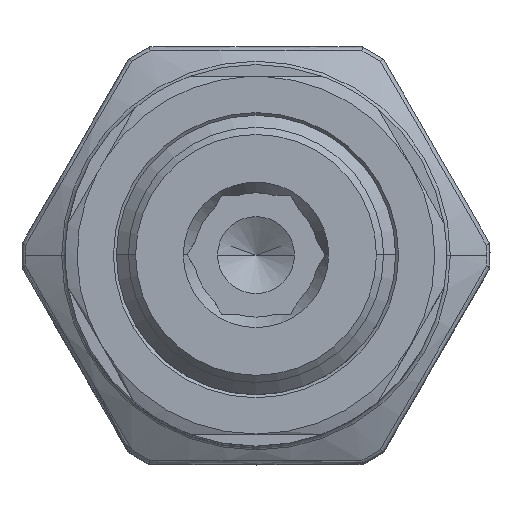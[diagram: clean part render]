
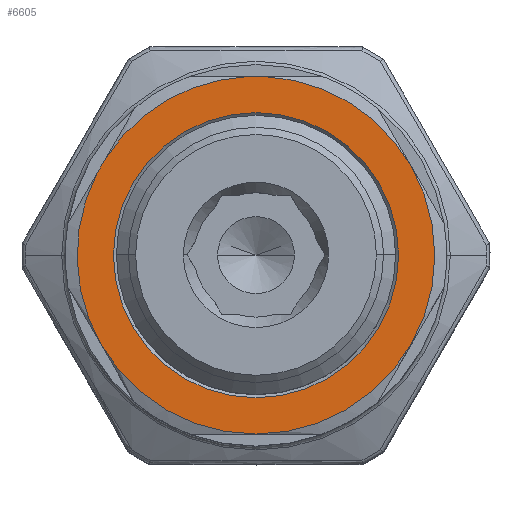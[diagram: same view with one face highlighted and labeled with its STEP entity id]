
A CAD part, top view. The second image highlights one B-rep face of the part: STEP entity #6605.
In plain terms, the highlighted planar face has unit normal (0, 0, 1).
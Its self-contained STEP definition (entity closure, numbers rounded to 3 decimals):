
#2105=CARTESIAN_POINT('',(0.,0.,37.135));
#2106=DIRECTION('',(0.,0.,1.));
#2107=DIRECTION('',(-0.866,-0.5,0.));
#2108=AXIS2_PLACEMENT_3D('',#2105,#2106,#2107);
#2110=CARTESIAN_POINT('',(0.,0.,37.135));
#2111=DIRECTION('',(0.,0.,1.));
#2112=DIRECTION('',(-0.889,0.458,0.));
#2113=AXIS2_PLACEMENT_3D('',#2110,#2111,#2112);
#2115=DIRECTION('',(-0.5,-0.866,0.));
#2116=VECTOR('',#2115,0.921);
#2117=CARTESIAN_POINT('',(-8.009,5.156,37.135));
#2118=LINE('',#2117,#2116);
#2119=CARTESIAN_POINT('',(0.,0.,37.135));
#2120=DIRECTION('',(0.,0.,1.));
#2121=DIRECTION('',(-0.048,0.999,0.));
#2122=AXIS2_PLACEMENT_3D('',#2119,#2120,#2121);
#2124=DIRECTION('',(1.,0.,0.));
#2125=VECTOR('',#2124,0.921);
#2126=CARTESIAN_POINT('',(-0.46,9.514,37.135));
#2127=LINE('',#2126,#2125);
#2128=CARTESIAN_POINT('',(0.,0.,37.135));
#2129=DIRECTION('',(0.,0.,1.));
#2130=DIRECTION('',(0.866,0.5,0.));
#2131=AXIS2_PLACEMENT_3D('',#2128,#2129,#2130);
#2133=CARTESIAN_POINT('',(0.,0.,37.135));
#2134=DIRECTION('',(0.,0.,-1.));
#2135=DIRECTION('',(0.866,0.5,0.));
#2136=AXIS2_PLACEMENT_3D('',#2133,#2134,#2135);
#2138=CARTESIAN_POINT('',(0.,0.,37.135));
#2139=DIRECTION('',(0.,0.,-1.));
#2140=DIRECTION('',(-0.866,-0.5,0.));
#2141=AXIS2_PLACEMENT_3D('',#2138,#2139,#2140);
#3211=CARTESIAN_POINT('',(-8.249,-4.763,37.135));
#3212=CARTESIAN_POINT('',(8.249,4.763,37.135));
#3213=VERTEX_POINT('',#3211);
#3214=VERTEX_POINT('',#3212);
#3215=CARTESIAN_POINT('',(0.46,9.514,37.135));
#3216=VERTEX_POINT('',#3215);
#3217=CARTESIAN_POINT('',(-0.46,9.514,37.135));
#3218=CARTESIAN_POINT('',(-8.009,5.156,37.135));
#3219=VERTEX_POINT('',#3217);
#3220=VERTEX_POINT('',#3218);
#3221=CARTESIAN_POINT('',(-8.469,4.358,37.135));
#3222=VERTEX_POINT('',#3221);
#3223=CARTESIAN_POINT('',(6.577,3.797,37.135));
#3224=CARTESIAN_POINT('',(-6.577,-3.797,37.135));
#3225=VERTEX_POINT('',#3223);
#3226=VERTEX_POINT('',#3224);
#6583=CARTESIAN_POINT('',(0.,0.,37.135));
#6584=DIRECTION('',(0.,0.,1.));
#6585=DIRECTION('',(0.866,0.5,0.));
#6586=AXIS2_PLACEMENT_3D('',#6583,#6584,#6585);
#6587=PLANE('',#6586);
#6589=ORIENTED_EDGE('',*,*,#6588,.F.);
#6591=ORIENTED_EDGE('',*,*,#6590,.F.);
#6592=ORIENTED_EDGE('',*,*,#6512,.F.);
#6594=ORIENTED_EDGE('',*,*,#6593,.F.);
#6595=ORIENTED_EDGE('',*,*,#6547,.T.);
#6596=ORIENTED_EDGE('',*,*,#6577,.F.);
#6597=EDGE_LOOP('',(#6589,#6591,#6592,#6594,#6595,#6596));
#6598=FACE_OUTER_BOUND('',#6597,.F.);
#6600=ORIENTED_EDGE('',*,*,#6599,.F.);
#6602=ORIENTED_EDGE('',*,*,#6601,.F.);
#6603=EDGE_LOOP('',(#6600,#6602));
#6604=FACE_BOUND('',#6603,.F.);
#6605=ADVANCED_FACE('',(#6598,#6604),#6587,.T.);
#2109=CIRCLE('',#2108,9.525);
#2114=CIRCLE('',#2113,9.525);
#2123=CIRCLE('',#2122,9.525);
#2132=CIRCLE('',#2131,9.525);
#2137=CIRCLE('',#2136,7.595);
#2142=CIRCLE('',#2141,7.595);
#6512=EDGE_CURVE('',#3220,#3222,#2118,.T.);
#6547=EDGE_CURVE('',#3219,#3216,#2127,.T.);
#6577=EDGE_CURVE('',#3214,#3216,#2132,.T.);
#6588=EDGE_CURVE('',#3213,#3214,#2109,.T.);
#6590=EDGE_CURVE('',#3222,#3213,#2114,.T.);
#6593=EDGE_CURVE('',#3219,#3220,#2123,.T.);
#6599=EDGE_CURVE('',#3225,#3226,#2137,.T.);
#6601=EDGE_CURVE('',#3226,#3225,#2142,.T.);
